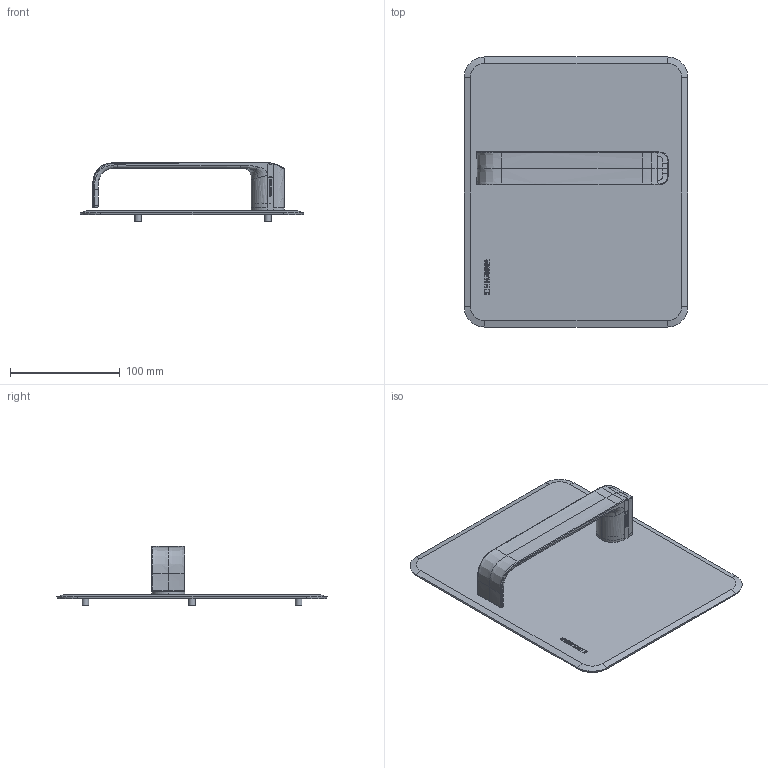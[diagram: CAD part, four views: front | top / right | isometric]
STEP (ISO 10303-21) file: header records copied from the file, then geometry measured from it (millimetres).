
FILE_DESCRIPTION(/* description */ (''),/* implementation_level */ '2;1');
FILE_NAME(/* name */ 'C:\ADSK_DMS_WS\Designs\Vorschläge\Loc Schalen\Muschel Serie 1\S1.0.D4Links\Heusser-Muschel S1.0.D4.0L.stp',/* time_stamp */ '2020-10-10T09:50:52+02:00',/* author */ ('gm'),/* organization */ (''),/* preprocessor_version */ 'ST-DEVELOPER v16.5',/* originating_system */ 'Autodesk Inventor 2017',/* authorisation */ '');
FILE_SCHEMA (('AUTOMOTIVE_DESIGN { 1 0 10303 214 3 1 1 }'));
Length unit declared in the file: millimetre
Products named in the file (1): S1.0.D1.0L
Bounding box: 203.62 x 245.62 x 54.54 mm (x, y, z)
Volume: 152465.3 mm3; surface area: 122842.5 mm2
Topology: 1 solids, 2 shells, 569 faces, 1498 edges, 978 vertices
Faces by surface type: plane 289, bspline 217, cylinder 33, cone 30
Full cylindrical faces by diameter (mm): 1.7 x2, 3.242 x3, 4.917 x1, 6 x3, 8 x3, 14.2 x1, 16 x3, 18 x1, 19 x1, 19.1 x1, 23 x1, 23.2 x1, 24 x1, 25 x1, 26 x1, 28 x1, 28.6 x1
Entity records: 24719 total; most frequent: CARTESIAN_POINT 11560, ORIENTED_EDGE 2882, DIRECTION 1952, EDGE_CURVE 1441, VERTEX_POINT 965, LINE 854, VECTOR 854, EDGE_LOOP 668
